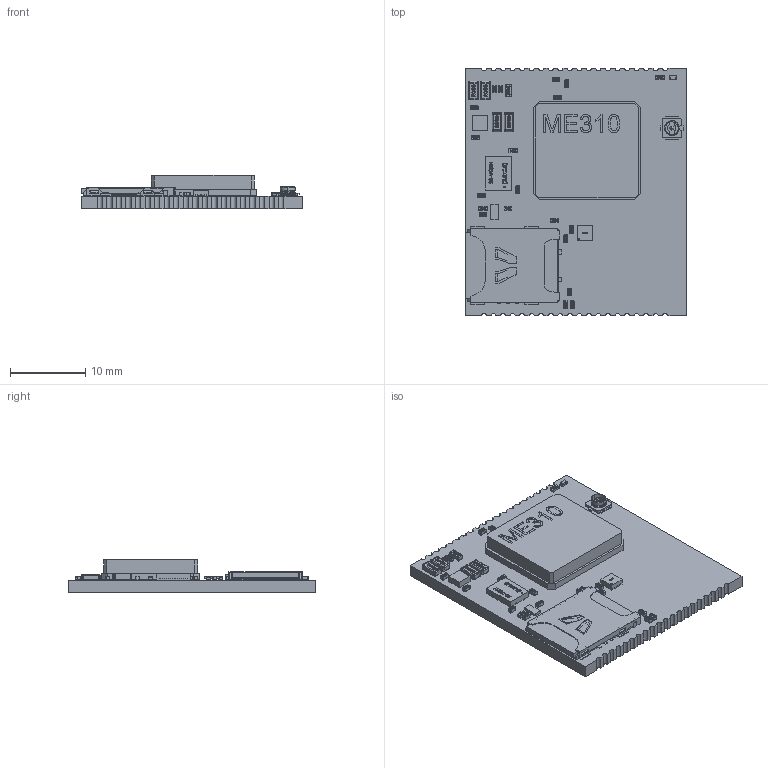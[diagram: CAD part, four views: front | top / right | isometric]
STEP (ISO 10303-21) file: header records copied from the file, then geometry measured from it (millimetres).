
FILE_DESCRIPTION(('Open CASCADE Model'),'2;1');
FILE_NAME('Open CASCADE Shape Model','2020-04-30T16:20:23',('Author'),( 'Open CASCADE'),'Open CASCADE STEP processor 6.8','Open CASCADE 6.8' ,'Unknown');
FILE_SCHEMA(('AUTOMOTIVE_DESIGN { 1 0 10303 214 1 1 1 1 }'));
Length unit declared in the file: millimetre
Products named in the file (64): PCB; BoardDES0272_10; Open CASCADE STEP translator 6.8 1.1.1; Open CASCADE STEP translator 6.8 1.1.1.1; R9DES0272_10; Resistor_1005-0402; U3DES0272_10; 6326260880; Extruded; C22DES0272_10; Capacitor_0402(1005M); C23DES0272_10; C21DES0272_10; C20DES0272_10; R8DES0272_10; D1DES0272_10; LED_0402_RED; U4DES0272_10; DFN_6_2x2; U6DES0272_10; 6326257600; U5DES0272_10; VQFN-20_(3_5x4_5); R7DES0272_10; R1DES0272_10; L1DES0272_10; Resistor_1609-0603; C19DES0272_10; Capacitor_0805(2012M); C18DES0272_10; C17DES0272_10; C8DES0272_10; C7DES0272_10; C6DES0272_10; C5DES0272_10; C4DES0272_10; C3DES0272_10; C2DES0272_10; C1DES0272_10; C16DES0272_10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
Assembly tree (86 placements, depth 6):
  PCB
    BoardDES0272_10
      Open CASCADE STEP translator 6.8 1.1.1
        Open CASCADE STEP translator 6.8 1.1.1.1
    R9DES0272_10
      Resistor_1005-0402
    U3DES0272_10
      6326260880
        Extruded
    C22DES0272_10
      Capacitor_0402(1005M)
    C23DES0272_10
      Capacitor_0402(1005M)
    C21DES0272_10
      Capacitor_0402(1005M)
    C20DES0272_10
      Capacitor_0402(1005M)
    R8DES0272_10
      Resistor_1005-0402
    D1DES0272_10
      LED_0402_RED
    U4DES0272_10
      DFN_6_2x2
    U6DES0272_10
      6326257600
        Extruded
    U5DES0272_10
      VQFN-20_(3_5x4_5)
    R7DES0272_10
      Resistor_1005-0402
    R1DES0272_10
      Resistor_1005-0402
    L1DES0272_10
      Resistor_1609-0603
    C19DES0272_10
      Capacitor_0805(2012M)
    C18DES0272_10
      Capacitor_0805(2012M)
    C17DES0272_10
      Capacitor_0402(1005M)
    C8DES0272_10
      Capacitor_0402(1005M)
    C7DES0272_10
      Capacitor_0402(1005M)
    C6DES0272_10
      Capacitor_0402(1005M)
    C5DES0272_10
      Capacitor_0402(1005M)
    C4DES0272_10
      Capacitor_0805(2012M)
    C3DES0272_10
      Capacitor_0805(2012M)
    C2DES0272_10
      Capacitor_0402(1005M)
    C1DES0272_10
      Capacitor_0402(1005M)
    C16DES0272_10
      Capacitor_0402(1005M)
    C15DES0272_10
      Capacitor_0402(1005M)
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Bounding box: 29.5 x 33 x 4.4 mm (x, y, z)
Volume: 2692.1 mm3; surface area: 4850.2 mm2
Topology: 98 solids, 98 shells, 4167 faces, 10955 edges, 7107 vertices
Faces by surface type: plane 2197, bspline 1295, cylinder 604, extrusion 53, sphere 8, cone 8, revolution 2
Entity records: 75039 total; most frequent: CARTESIAN_POINT 26307, ORIENTED_EDGE 9288, DIRECTION 7483, EDGE_CURVE 4644, VECTOR 3627, LINE 3574, VERTEX_POINT 3061, AXIS2_PLACEMENT_3D 1927
